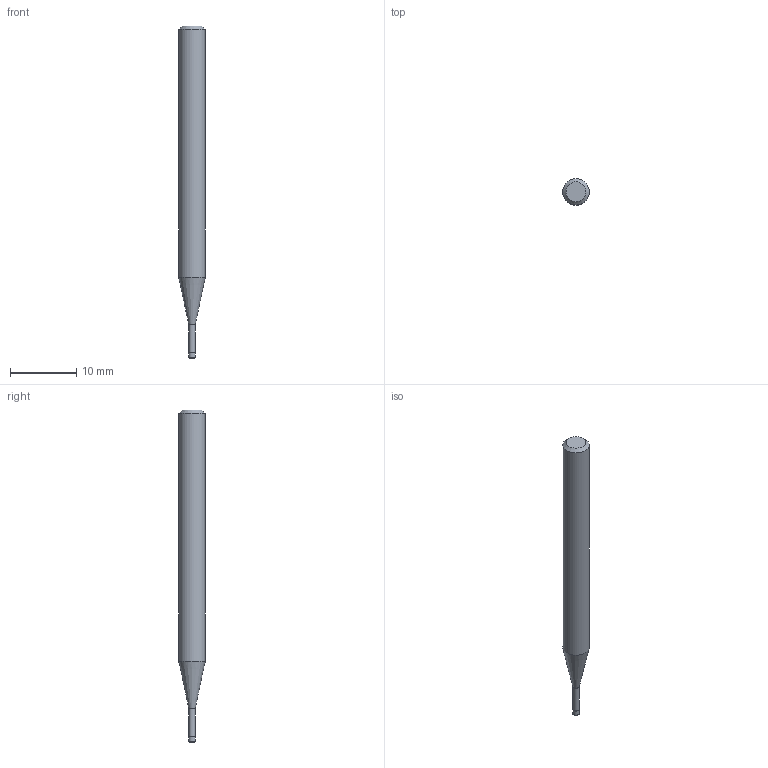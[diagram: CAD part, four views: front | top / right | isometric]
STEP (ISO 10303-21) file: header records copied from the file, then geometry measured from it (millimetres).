
FILE_DESCRIPTION((''),'2;1');
FILE_NAME('C:\Users\nsx150\AppData\Local\Temp\Mastercam 2021\3SYKECWX22\TEMP.step','2021-04-22T09:46:57',(''),(''),'STEP Write','Mastercam 2021 ... CNC Software, Inc.','');
FILE_SCHEMA(('AUTOMOTIVE_DESIGN'));
Length unit declared in the file: millimetre
Products named in the file (1): None
Bounding box: 4 x 4 x 50 mm (x, y, z)
Volume: 516.4 mm3; surface area: 558.2 mm2
Topology: 2 solids, 2 shells, 10 faces, 14 edges, 8 vertices
Faces by surface type: plane 4, cylinder 3, cone 2, torus 1
Full cylindrical faces by diameter (mm): 0.95 x1, 1 x1, 4 x1
Entity records: 232 total; most frequent: DIRECTION 40, CARTESIAN_POINT 28, AXIS2_PLACEMENT_3D 20, ORIENTED_EDGE 16, EDGE_LOOP 16, STYLED_ITEM 13, ADVANCED_FACE 10, FACE_BOUND 10
